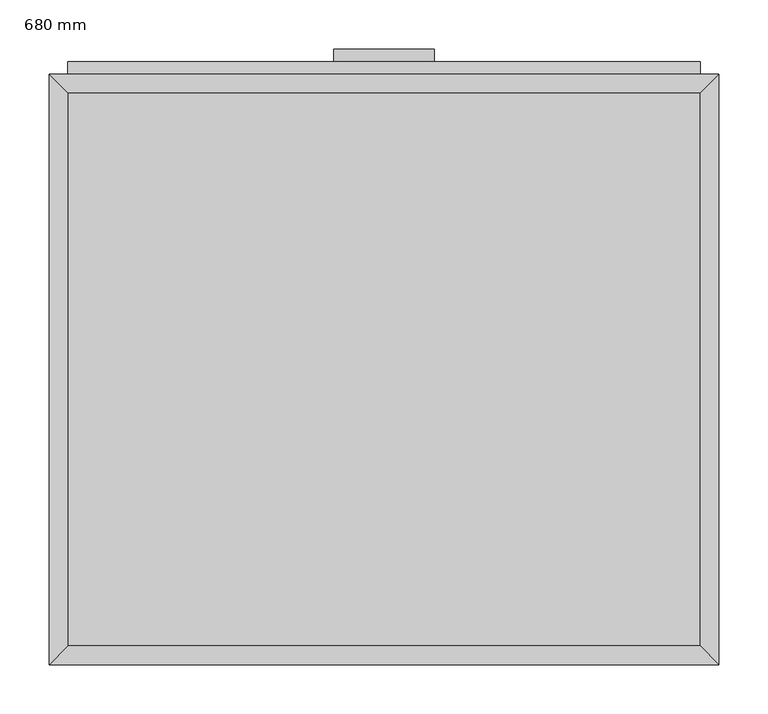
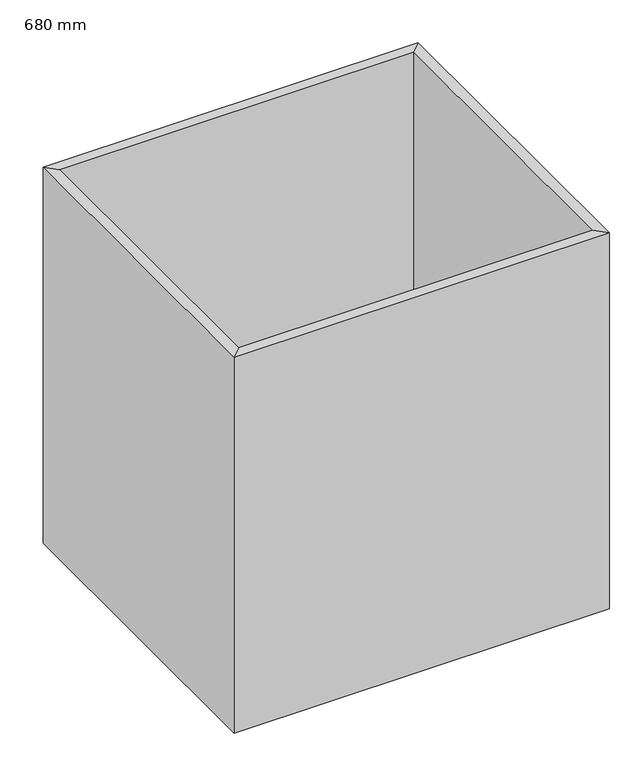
"""IFC4 building model written with IfcOpenShell, lengths in millimetres: furniture geometry, Armario 3 cajones : 680 mm."""

from ifc_helpers import new_model, si_unit, frame, origin, place, context, project, spatial, polyline, outline, extrude, faceted_brep, source, transform, mapped, element, save


def furniture_680_mm_c6045463(model_context):
    return source(origin(), model_context, "Body", "SolidModel", [
        extrude(outline(polyline([(339.6877049, 19.05), (-302.2122951, 19.05), (-302.2122951, 580.95), (339.6877049, 580.95), (339.6877049, 19.05)])), frame((0.0, 0.0, 150.0), z_axis=(0.0, 0.0, 1.0), x_axis=(1.0, 0.0, 0.0)), (0.0, 0.0, 1.0), 19.05),
        faceted_brep([(339.6877049, 580.95, 870.0), (-302.2122951, 580.95, 870.0), (-302.2122951, 580.95, 150.0), (339.6877049, 580.95, 150.0), (358.7377049, 600.0, 870.0), (-321.2622951, 600.0, 870.0), (358.7377049, 600.0, 150.0), (-321.2622951, 600.0, 150.0), (-302.2122951, 19.05, 870.0), (-302.2122951, 19.05, 150.0), (-321.2622951, 0.0, 870.0), (-321.2622951, 0.0, 150.0), (339.6877049, 19.05, 870.0), (339.6877049, 19.05, 150.0), (358.7377049, 0.0, 870.0), (358.7377049, 0.0, 150.0)], [[[0, 1, 2, 3]], [[4, 5, 1, 0]], [[6, 7, 5, 4]], [[3, 2, 7, 6]], [[1, 8, 9, 2]], [[5, 10, 8, 1]], [[7, 11, 10, 5]], [[2, 9, 11, 7]], [[8, 12, 13, 9]], [[10, 14, 12, 8]], [[11, 15, 14, 10]], [[9, 13, 15, 11]], [[12, 0, 3, 13]], [[14, 4, 0, 12]], [[15, 6, 4, 14]], [[13, 3, 6, 15]]]),
        extrude(outline(polyline([(339.6877049, 612.7), (339.6877049, 600.0), (-302.2122951, 600.0), (-302.2122951, 612.7), (339.6877049, 612.7)])), frame((0.0, 0.0, 703.65), z_axis=(0.0, 0.0, 1.0), x_axis=(1.0, 0.0, 0.0)), (0.0, 0.0, 1.0), 147.3),
        extrude(outline(polyline([(339.6877049, 612.7), (339.6877049, 600.0), (-302.2122951, 600.0), (-302.2122951, 612.7), (339.6877049, 612.7)])), frame((0.0, 0.0, 543.65), z_axis=(0.0, 0.0, 1.0), x_axis=(1.0, 0.0, 0.0)), (0.0, 0.0, 1.0), 147.3),
        extrude(outline(polyline([(339.6877049, 612.7), (339.6877049, 600.0), (-302.2122951, 600.0), (-302.2122951, 612.7), (339.6877049, 612.7)])), frame((0.0, 0.0, 181.75), z_axis=(0.0, 0.0, 1.0), x_axis=(1.0, 0.0, 0.0)), (0.0, 0.0, 1.0), 349.2),
        extrude(outline(polyline([(69.5377049, 625.4), (69.5377049, 612.7), (-32.0622951, 612.7), (-32.0622951, 625.4), (69.5377049, 625.4)])), frame((0.0, 0.0, 812.85), z_axis=(0.0, 0.0, 1.0), x_axis=(1.0, 0.0, 0.0)), (0.0, 0.0, 1.0), 12.7),
        extrude(outline(polyline([(69.5377049, 625.4), (69.5377049, 612.7), (-32.0622951, 612.7), (-32.0622951, 625.4), (69.5377049, 625.4)])), frame((0.0, 0.0, 652.85), z_axis=(0.0, 0.0, 1.0), x_axis=(1.0, 0.0, 0.0)), (0.0, 0.0, 1.0), 12.7),
        extrude(outline(polyline([(69.5377049, 625.4), (69.5377049, 612.7), (-32.0622951, 612.7), (-32.0622951, 625.4), (69.5377049, 625.4)])), frame((0.0, 0.0, 492.85), z_axis=(0.0, 0.0, 1.0), x_axis=(1.0, 0.0, 0.0)), (0.0, 0.0, 1.0), 12.7),
    ])


if __name__ == "__main__":
    model = new_model("IFC4")
    model_context = context("Model", 3, world=origin())
    ifc_project = project(units=[si_unit("LENGTHUNIT", "METRE", prefix="MILLI")], contexts=[model_context])
    site = spatial("IfcSite", under=ifc_project)
    building = spatial("IfcBuilding", under=site)
    placement = place(None, origin())
    furniture_680_mm_shape = furniture_680_mm_c6045463(model_context)
    element("IfcFurniture", 1, ObjectType="Armario 3 cajones : 680 mm", at=placement, inside=building, context=model_context, shape_type="MappedRepresentation", body=[
        mapped(furniture_680_mm_shape, transform((0.0, 0.0, 0.0), x_axis=(1.0, 0.0, 0.0), y_axis=(0.0, 1.0, 0.0), z_axis=(0.0, 0.0, 1.0))),
    ])
    save(model, "model.ifc")
